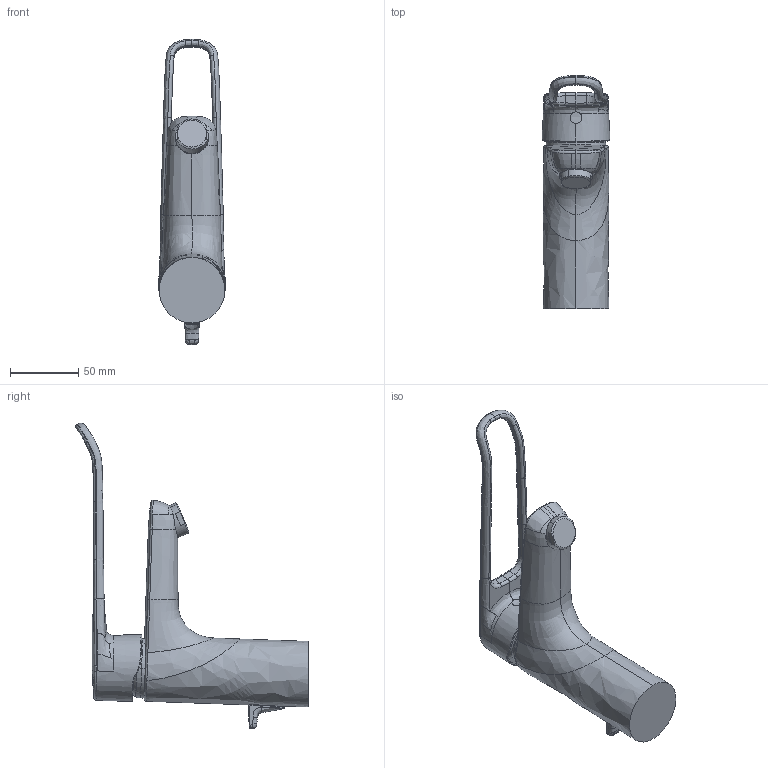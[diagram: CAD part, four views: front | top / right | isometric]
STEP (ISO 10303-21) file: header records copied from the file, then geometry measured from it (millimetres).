
FILE_DESCRIPTION (( 'STEP AP203' ), '1' );
FILE_NAME ('45012185(2022).STEP', '2022-03-21T07:32:03', ( '' ), ( '' ), 'SwSTEP 2.0', 'SolidWorks 2016', '' );
FILE_SCHEMA (( 'CONFIG_CONTROL_DESIGN' ));
Length unit declared in the file: millimetre
Products named in the file (1): 45012185(2022)
Bounding box: 49.74 x 171.18 x 224.46 mm (x, y, z)
Volume: 392138.7 mm3; surface area: 48197.5 mm2
Topology: 1 solids, 1 shells, 207 faces, 533 edges, 329 vertices
Faces by surface type: bspline 189, plane 10, cylinder 4, sphere 2, cone 2
Entity records: 39365 total; most frequent: CARTESIAN_POINT 35848, ORIENTED_EDGE 1066, EDGE_CURVE 533, B_SPLINE_CURVE_WITH_KNOTS 462, VERTEX_POINT 329, EDGE_LOOP 210, FACE_OUTER_BOUND 207, ADVANCED_FACE 207
